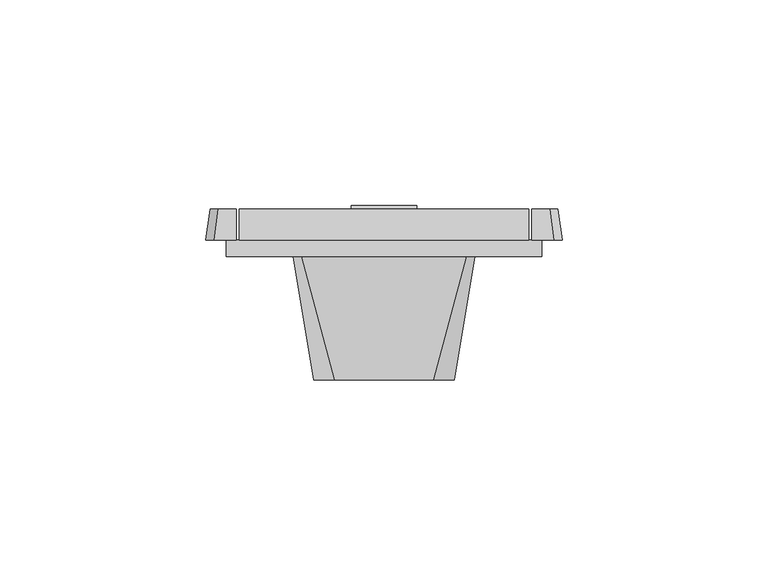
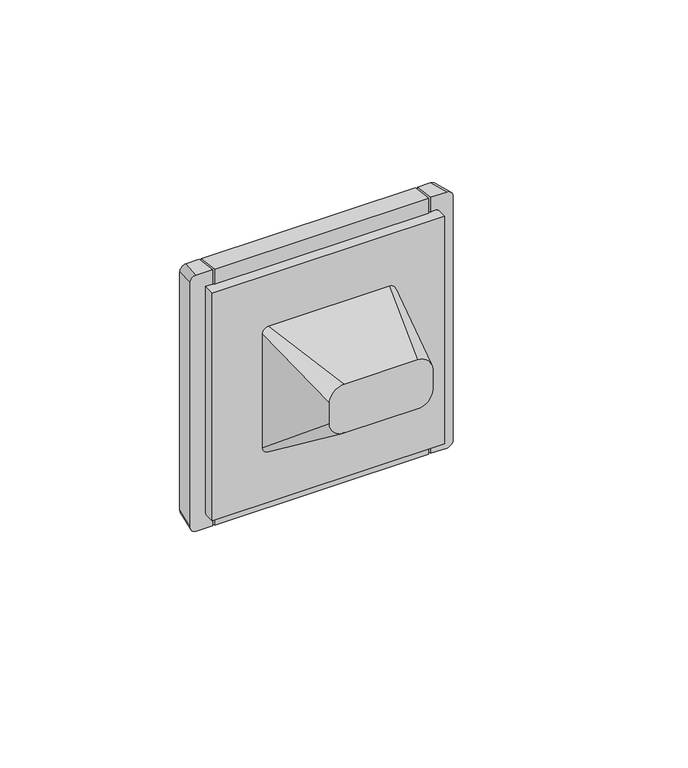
"""IFC4 building model written with IfcOpenShell, lengths in millimetres: proxy geometry, IEK_Forte&Piano_Розекта информационная : RJ45 к5E_FP132."""

from ifc_helpers import new_model, si_unit, point, frame, origin, place, context, project, spatial, polyline, circle_curve, trimmed, outline, extrude, faceted_brep, source, transform, mapped, element, save
from ifc_brep_helpers import plane_surface, extruded_surface, spline_surface, advanced_brep


def electrical_fixtures_5e79d3e2(model_context):
    return source(origin(), model_context, "Body", "SolidModel", [
        faceted_brep([(-22.7, 11.5, 22.7), (22.7, 11.5, 22.7), (22.7, 11.5, -22.7), (-22.7, 11.5, -22.7), (10.0, 11.5, -10.479217), (10.0, 11.5, 10.625), (7.9601761, 11.5, 10.625), (-7.9601761, 11.5, 10.625), (-10.0, 11.5, 10.625), (-10.0, 11.5, -10.479217), (-22.7, 4.0, 22.7), (-22.7, 4.0, -22.7), (22.7, 4.0, -22.7), (22.7, 4.0, 22.7), (10.0, 5.8684205, -4.8476375), (-10.0, 5.8684205, -4.8476375), (-7.9601761, 6.6767352, -2.626811), (7.9601761, 6.6767352, -2.626811), (7.9601761, 5.7370426, -2.2847909), (-7.9601761, 5.7370426, -2.2847909), (-7.9601761, 10.5603074, 10.9670201), (7.9601761, 10.5603074, 10.9670201)], [[[0, 1, 2, 3], [4, 5, 6, 7, 8, 9]], [[10, 11, 12, 13]], [[0, 3, 11, 10]], [[3, 2, 12, 11]], [[2, 1, 13, 12]], [[1, 0, 10, 13]], [[14, 5, 4]], [[15, 9, 8]], [[14, 4, 9, 15]], [[5, 14, 15, 8, 7, 16, 17, 6]], [[18, 19, 20, 21]], [[18, 21, 6, 17]], [[21, 20, 7, 6]], [[20, 19, 16, 7]], [[19, 18, 17, 16]]]),
        extrude(outline(polyline([(0.0, -2.0472767), (0.0, 0.0), (15.9203522, 0.0), (15.9203522, -2.0472767), (0.0, -2.0472767)])), frame((-7.9601761, 11.9018122, 8.6669379), z_axis=(0.0, 0.3420201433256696, 0.9396926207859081), x_axis=(1.0, 0.0, 0.0)), (0.0, 0.0, 1.0), 1.1350324),
        faceted_brep([(35.2, 11.5, 43.5), (35.2, 4.0, 44.5), (35.2, 4.0, -44.5), (35.2, 11.5, -43.5), (-35.2, 11.5, 43.5), (-35.2, 11.5, -43.5), (-35.2, 4.0, -44.5), (-35.2, 4.0, 44.5), (-23.5, 4.0, 23.5), (23.5, 4.0, 23.5), (23.5, 4.0, -23.5), (-23.5, 4.0, -23.5), (23.5, 11.5, 23.5), (-23.5, 11.5, 23.5), (-23.5, 11.5, -23.5), (23.5, 11.5, -23.5)], [[[0, 1, 2, 3]], [[4, 5, 6, 7]], [[1, 0, 4, 7]], [[2, 1, 7, 6], [8, 9, 10, 11]], [[3, 2, 6, 5]], [[0, 3, 5, 4], [12, 13, 14, 15]], [[8, 13, 12, 9]], [[9, 12, 15, 10]], [[10, 15, 14, 11]], [[13, 8, 11, 14]]]),
        advanced_brep(
        [(35.8576533, 11.5, 43.5), (35.8576533, 11.5, -43.5), (35.8576533, 4.0, -44.5), (35.8576533, 4.0, -39.5), (35.8576533, 4.0, 39.5), (35.8576533, 4.0, 44.5), (-35.8576533, 11.5, -43.5), (-35.8576533, 11.5, 43.5), (-35.8576533, 4.0, 44.5), (-35.8576533, 4.0, 39.5), (-35.8576533, 4.0, -39.5), (-35.8576533, 4.0, -44.5), (40.25, 11.5, 43.5), (42.25, 11.5, 41.5), (42.25, 11.5, -41.5), (40.25, 11.5, -43.5), (-40.25, 11.5, -43.5), (-42.25, 11.5, -41.5), (-42.25, 11.5, 41.5), (-40.25, 11.5, 43.5), (-41.25, 4.0, 44.5), (-43.25, 4.0, 42.5), (-43.25, 4.0, -42.5), (-41.25, 4.0, -44.5), (-38.25, 4.0, -39.5), (-38.25, 4.0, 39.5), (41.25, 4.0, -44.5), (43.25, 4.0, -42.5), (43.25, 4.0, 42.5), (41.25, 4.0, 44.5), (38.25, 4.0, 39.5), (38.25, 4.0, -39.5), (-38.25, 0.0, 39.5), (-38.25, 0.0, -39.5), (38.25, 0.0, -39.5), (38.25, 0.0, 39.5)],
        [
            (0, 1),
            (1, 2),
            (2, 3),
            (3, 4),
            (4, 5),
            (5, 0),
            (6, 7),
            (7, 8),
            (8, 9),
            (9, 10),
            (10, 11),
            (11, 6),
            (12, 13, circle_curve(frame((40.25, 11.5, 41.5), z_axis=(0.0, 1.0, 0.0), x_axis=(-1.0, 0.0, 0.0)), 2.0)),
            (13, 14),
            (14, 15, circle_curve(frame((40.25, 11.5, -41.5), z_axis=(0.0, 1.0, 0.0), x_axis=(-1.0, 0.0, 0.0)), 2.0)),
            (15, 1),
            (0, 12),
            (16, 17, circle_curve(frame((-40.25, 11.5, -41.5), z_axis=(0.0, 1.0, 0.0), x_axis=(-1.0, 0.0, 0.0)), 2.0)),
            (17, 18),
            (18, 19, circle_curve(frame((-40.25, 11.5, 41.5), z_axis=(0.0, 1.0, 0.0), x_axis=(-1.0, 0.0, 0.0)), 2.0)),
            (19, 7),
            (6, 16),
            (20, 21, circle_curve(frame((-41.25, 4.0, 42.5), z_axis=(0.0, -1.0, 0.0), x_axis=(-1.0, 0.0, 0.0)), 2.0)),
            (21, 22),
            (22, 23, circle_curve(frame((-41.25, 4.0, -42.5), z_axis=(0.0, -1.0, 0.0), x_axis=(-1.0, 0.0, 0.0)), 2.0)),
            (23, 11),
            (10, 24),
            (24, 25),
            (25, 9),
            (8, 20),
            (26, 27, circle_curve(frame((41.25, 4.0, -42.5), z_axis=(0.0, -1.0, 0.0), x_axis=(-1.0, 0.0, 0.0)), 2.0)),
            (27, 28),
            (28, 29, circle_curve(frame((41.25, 4.0, 42.5), z_axis=(0.0, -1.0, 0.0), x_axis=(-1.0, 0.0, 0.0)), 2.0)),
            (29, 5),
            (4, 30),
            (30, 31),
            (31, 3),
            (2, 26),
            (29, 12),
            (19, 20),
            (28, 13),
            (27, 14),
            (26, 15),
            (23, 16),
            (22, 17),
            (21, 18),
            (3, 10),
            (9, 4),
            (32, 33),
            (33, 34),
            (34, 35),
            (35, 32),
            (32, 25),
            (24, 33),
            (31, 34),
            (30, 35),
        ],
        [
            plane_surface(frame((35.8576533, 11.5, 44.5), z_axis=(-1.0, 0.0, 0.0), x_axis=(0.0, -1.0, 0.0))),
            plane_surface(frame((-35.8576533, 11.5, -44.5), z_axis=(1.0, 0.0, 0.0), x_axis=(0.0, -1.0, 0.0))),
            plane_surface(frame((0.0, 11.5, 0.0), z_axis=(0.0, 1.0, 0.0), x_axis=(1.0, 0.0, 0.0))),
            plane_surface(frame((0.0, 4.0, 0.0), z_axis=(0.0, -1.0, 0.0), x_axis=(1.0, 0.0, 0.0))),
            plane_surface(frame((0.0, 4.0, 44.5), z_axis=(0.0, 0.13216372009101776, 0.9912279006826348), x_axis=(1.0, 0.0, 0.0))),
            extruded_surface(trimmed(circle_curve(frame((41.25, 4.0, 42.5), z_axis=(0.0, 1.0, 0.0), x_axis=(-1.0, 0.0, 0.0)), 2.0), [point((41.25, 4.0, 44.5))], [point((43.25, 4.0, 42.5))], True, "CARTESIAN"), (-1.0, 7.5, -1.0), 7.632168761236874),
            plane_surface(frame((43.25, 4.0, 0.0), z_axis=(0.9912279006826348, 0.13216372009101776, 0.0), x_axis=(0.0, 0.0, -1.0))),
            extruded_surface(trimmed(circle_curve(frame((41.25, 4.0, -42.5), z_axis=(0.0, 1.0, 0.0), x_axis=(-1.0, 0.0, 0.0)), 2.0), [point((43.25, 4.0, -42.5))], [point((41.25, 4.0, -44.5))], True, "CARTESIAN"), (-1.0, 7.5, 1.0), 7.632168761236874),
            plane_surface(frame((0.0, 4.0, -44.5), z_axis=(0.0, 0.13216372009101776, -0.9912279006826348), x_axis=(-1.0, 0.0, 0.0))),
            extruded_surface(trimmed(circle_curve(frame((-41.25, 4.0, -42.5), z_axis=(0.0, 1.0, 0.0), x_axis=(-1.0, 0.0, 0.0)), 2.0), [point((-41.25, 4.0, -44.5))], [point((-43.25, 4.0, -42.5))], True, "CARTESIAN"), (1.0, 7.5, 1.0), 7.632168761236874),
            plane_surface(frame((-43.25, 4.0, 0.0), z_axis=(-0.9912279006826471, 0.13216372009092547, 0.0), x_axis=(0.0, 0.0, 1.0))),
            extruded_surface(trimmed(circle_curve(frame((-41.25, 4.0, 42.5), z_axis=(0.0, 1.0, 0.0), x_axis=(-1.0, 0.0, 0.0)), 2.0), [point((-43.25, 4.0, 42.5))], [point((-41.25, 4.0, 44.5))], True, "CARTESIAN"), (1.0, 7.5, -1.0), 7.632168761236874),
            plane_surface(frame((-38.25, 4.0, 39.5), z_axis=(0.0, 1.0, 0.0), x_axis=(0.0, 0.0, 1.0))),
            plane_surface(frame((-38.25, 0.0, 39.5), z_axis=(0.0, -1.0, 0.0), x_axis=(0.0, 0.0, -1.0))),
            plane_surface(frame((-38.25, 0.0, 39.5), z_axis=(-1.0, 0.0, 0.0), x_axis=(0.0, 1.0, 0.0))),
            plane_surface(frame((-38.25, 0.0, -39.5), z_axis=(0.0, 0.0, -1.0), x_axis=(0.0, 1.0, 0.0))),
            plane_surface(frame((38.25, 0.0, -39.5), z_axis=(1.0, 0.0, 0.0), x_axis=(0.0, 1.0, 0.0))),
            plane_surface(frame((38.25, 0.0, 39.5), z_axis=(0.0, 0.0, 1.0), x_axis=(0.0, 1.0, 0.0))),
        ],
        [
            (0, [[1, 2, 3, 4, 5, 6]]),
            (1, [[7, 8, 9, 10, 11, 12]]),
            (2, [[13, 14, 15, 16, -1, 17]]),
            (2, [[18, 19, 20, 21, -7, 22]]),
            (3, [[23, 24, 25, 26, -11, 27, 28, 29, -9, 30]]),
            (3, [[31, 32, 33, 34, -5, 35, 36, 37, -3, 38]]),
            (4, [[39, -17, -6, -34]]),
            (4, [[40, -30, -8, -21]]),
            (5, [[-13, -39, -33, 41]]),
            (6, [[-14, -41, -32, 42]]),
            (7, [[-15, -42, -31, 43]]),
            (8, [[-43, -38, -2, -16]]),
            (8, [[44, -22, -12, -26]]),
            (9, [[-18, -44, -25, 45]]),
            (10, [[-19, -45, -24, 46]]),
            (11, [[-20, -46, -23, -40]]),
            (12, [[47, -10, 48, -4]]),
            (13, [[49, 50, 51, 52]]),
            (14, [[-49, 53, -28, 54]]),
            (15, [[-50, -54, -27, -47, -37, 55]]),
            (16, [[-51, -55, -36, 56]]),
            (17, [[-52, -56, -35, -48, -29, -53]]),
        ],
    ),
        advanced_brep(
        [(-12.0, -30.0, 17.0), (-17.0, -30.0, 12.0), (-17.0, -30.0, 5.0), (-12.0, -30.0, 0.0), (12.0, -30.0, 0.0), (17.0, -30.0, 5.0), (17.0, -30.0, 12.0), (12.0, -30.0, 17.0), (-20.0, 0.0, 22.0), (20.0, 0.0, 22.0), (22.0, 0.0, 20.0), (22.0, 0.0, -20.0), (20.0, 0.0, -22.0), (-20.0, 0.0, -22.0), (-22.0, 0.0, -20.0), (-22.0, 0.0, 20.0)],
        [
            (0, 1, circle_curve(frame((-12.0, -30.0, 12.0), z_axis=(0.0, -1.0, 0.0), x_axis=(1.0, 0.0, 0.0)), 5.0)),
            (1, 2),
            (2, 3, circle_curve(frame((-12.0, -30.0, 5.0), z_axis=(0.0, -1.0, 0.0), x_axis=(1.0, 0.0, 0.0)), 5.0)),
            (3, 4),
            (4, 5, circle_curve(frame((12.0, -30.0, 5.0), z_axis=(0.0, -1.0, 0.0), x_axis=(1.0, 0.0, 0.0)), 5.0)),
            (5, 6),
            (6, 7, circle_curve(frame((12.0, -30.0, 12.0), z_axis=(0.0, -1.0, 0.0), x_axis=(1.0, 0.0, 0.0)), 5.0)),
            (7, 0),
            (8, 9),
            (9, 10, circle_curve(frame((20.0, 0.0, 20.0), z_axis=(0.0, 1.0, 0.0), x_axis=(1.0, 0.0, 0.0)), 2.0)),
            (10, 11),
            (11, 12, circle_curve(frame((20.0, 0.0, -20.0), z_axis=(0.0, 1.0, 0.0), x_axis=(1.0, 0.0, 0.0)), 2.0)),
            (12, 13),
            (13, 14, circle_curve(frame((-20.0, 0.0, -20.0), z_axis=(0.0, 1.0, 0.0), x_axis=(1.0, 0.0, 0.0)), 2.0)),
            (14, 15),
            (15, 8, circle_curve(frame((-20.0, 0.0, 20.0), z_axis=(0.0, 1.0, 0.0), x_axis=(1.0, 0.0, 0.0)), 2.0)),
            (8, 0),
            (7, 9),
            (6, 10),
            (5, 11),
            (4, 12),
            (3, 13),
            (2, 14),
            (1, 15),
        ],
        [
            plane_surface(frame((0.0, -30.0, 8.5), z_axis=(0.0, -1.0, 0.0), x_axis=(-1.0, 0.0, 0.0))),
            plane_surface(frame((0.0, 0.0, 0.0), z_axis=(0.0, 1.0, 0.0), x_axis=(-1.0, 0.0, 0.0))),
            plane_surface(frame((0.0, 0.0, 22.0), z_axis=(0.0, -0.16439898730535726, 0.9863939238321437), x_axis=(-1.0, 0.0, 0.0))),
            spline_surface(2, 1, [[(22.0, 0.0, 20.0), (17.0, -30.0, 12.0)], [(22.0, 0.0, 22.0), (17.0, -30.0, 17.0)], [(20.0, 0.0, 22.0), (12.0, -30.0, 17.0)]], [3, 3], [2, 2], [0.0, 1.0], [0.0, 1.0], weights=[[1.0, 1.0], [0.7071067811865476, 0.7071067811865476], [1.0, 1.0]]),
            plane_surface(frame((22.0, 0.0, 0.0), z_axis=(0.9863939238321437, -0.1643989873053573, 0.0), x_axis=(0.0, 0.0, 1.0))),
            spline_surface(2, 1, [[(20.0, 0.0, -22.0), (12.0, -30.0, 0.0)], [(22.0, 0.0, -22.0), (17.0, -30.0, 0.0)], [(22.0, 0.0, -20.0), (17.0, -30.0, 5.0)]], [3, 3], [2, 2], [0.0, 1.0], [0.0, 1.0], weights=[[1.0, 1.0], [0.7071067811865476, 0.7071067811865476], [1.0, 1.0]]),
            plane_surface(frame((0.0, 0.0, -22.0), z_axis=(0.0, -0.591363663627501, -0.8064049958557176), x_axis=(1.0, 0.0, 0.0))),
            spline_surface(2, 1, [[(-22.0, 0.0, -20.0), (-17.0, -30.0, 5.0)], [(-22.0, 0.0, -22.0), (-17.0, -30.0, 0.0)], [(-20.0, 0.0, -22.0), (-12.0, -30.0, 0.0)]], [3, 3], [2, 2], [0.0, 1.0], [0.0, 1.0], weights=[[1.0, 1.0], [0.7071067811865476, 0.7071067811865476], [1.0, 1.0]]),
            plane_surface(frame((-22.0, 0.0, 0.0), z_axis=(-0.9863939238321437, -0.1643989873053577, 0.0), x_axis=(0.0, 0.0, -1.0))),
            spline_surface(2, 1, [[(-20.0, 0.0, 22.0), (-12.0, -30.0, 17.0)], [(-22.0, 0.0, 22.0), (-17.0, -30.0, 17.0)], [(-22.0, 0.0, 20.0), (-17.0, -30.0, 12.0)]], [3, 3], [2, 2], [0.0, 1.0], [0.0, 1.0], weights=[[1.0, 1.0], [0.7071067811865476, 0.7071067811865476], [1.0, 1.0]]),
        ],
        [
            (0, [[1, 2, 3, 4, 5, 6, 7, 8]]),
            (1, [[9, 10, 11, 12, 13, 14, 15, 16]]),
            (2, [[-9, 17, -8, 18]]),
            (3, [[-10, -18, -7, 19]]),
            (4, [[-11, -19, -6, 20]]),
            (5, [[-12, -20, -5, 21]]),
            (6, [[-13, -21, -4, 22]]),
            (7, [[-14, -22, -3, 23]]),
            (8, [[-15, -23, -2, 24]]),
            (9, [[-16, -24, -1, -17]]),
        ],
    ),
    ])


if __name__ == "__main__":
    model = new_model("IFC4")
    model_context = context("Model", 3, world=origin())
    ifc_project = project(units=[si_unit("LENGTHUNIT", "METRE", prefix="MILLI")], contexts=[model_context])
    site = spatial("IfcSite", under=ifc_project)
    building = spatial("IfcBuilding", under=site)
    placement = place(None, origin())
    electrical_fixtures_shape = electrical_fixtures_5e79d3e2(model_context)
    element("IfcBuildingElementProxy", 1, Name="IEK_Forte&Piano_Розекта информационная : RJ45 к5E_FP132", ObjectType="IEK_Forte&Piano_Розекта информационная : RJ45 к5E_FP132", at=placement, inside=building, context=model_context, shape_type="MappedRepresentation", body=[
        mapped(electrical_fixtures_shape, transform((0.0, 0.0, 0.0), x_axis=(1.0, 0.0, 0.0), y_axis=(0.0, 1.0, 0.0), z_axis=(0.0, 0.0, 1.0))),
    ])
    save(model, "model.ifc")
